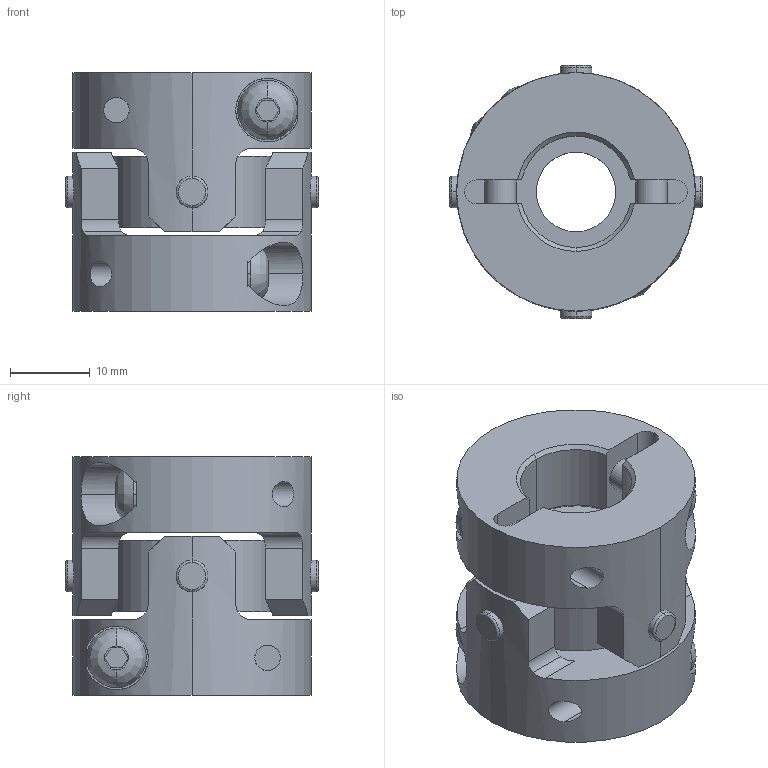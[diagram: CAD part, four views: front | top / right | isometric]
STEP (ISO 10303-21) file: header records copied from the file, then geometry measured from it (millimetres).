
FILE_DESCRIPTION((''),'2;1');
FILE_NAME('UA-30C-12×14.stp','2013-05-21T14:59:38',(''),(''),'AutoCAD STEP 2000i','AutoCAD 2000i',', , ');
FILE_SCHEMA(('CONFIG_CONTROL_DESIGN'));
Length unit declared in the file: millimetre
Products named in the file (8): UA-30C-11×11; 忣兜1; UA-3002-D11-1; BTN-M4; UA-3002-D11; UA-3002-D06-1; UA-3002-D06; UA30-SEN
Assembly tree (10 placements, depth 3):
  UA-30C-11×11
    忣兜1
    UA-3002-D11-1
      BTN-M4
    UA-3002-D11
      BTN-M4
    UA-3002-D06-1
      BTN-M4
    UA-3002-D06
      BTN-M4
    UA30-SEN
Bounding box: 31.82 x 31.82 x 30 mm (x, y, z)
Volume: 13735.4 mm3; surface area: 8445.1 mm2
Topology: 1 solids, 1 shells, 206 faces, 554 edges, 364 vertices
Faces by surface type: cylinder 96, plane 78, cone 16, bspline 8, torus 8
Entity records: 8475 total; most frequent: CARTESIAN_POINT 3119, ORIENTED_EDGE 1108, DIRECTION 1072, EDGE_CURVE 554, AXIS2_PLACEMENT_3D 413, VERTEX_POINT 364, VECTOR 246, LINE 246
